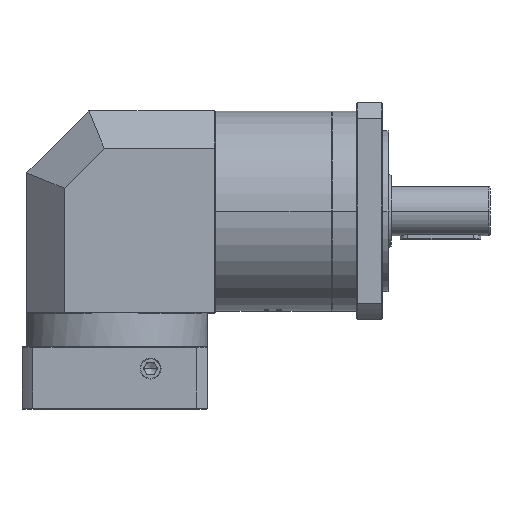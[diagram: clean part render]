
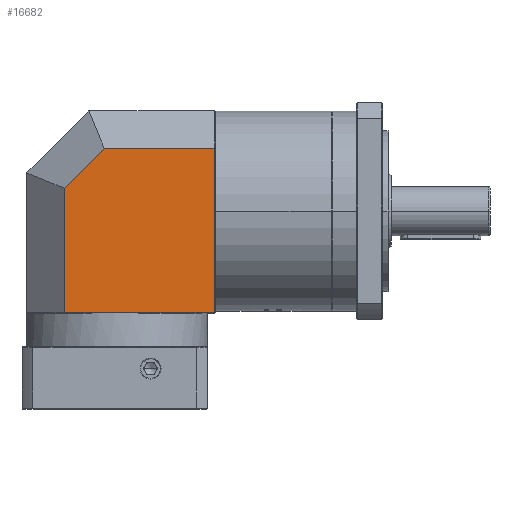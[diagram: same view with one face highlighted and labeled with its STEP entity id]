
A CAD part, top view. The second image highlights one B-rep face of the part: STEP entity #16682.
In plain terms, the highlighted planar face has unit normal (0, 0, 1).
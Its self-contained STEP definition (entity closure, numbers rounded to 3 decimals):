
#2240 = CARTESIAN_POINT ( 'NONE',  ( 86.533, -69.506, 323.25 ) ) ;
#4491 = VECTOR ( 'NONE', #87929, 1000. ) ;
#5233 = ORIENTED_EDGE ( 'NONE', *, *, #144034, .T. ) ;
#9850 = DIRECTION ( 'NONE',  ( 1., 0., 0. ) ) ;
#10577 = LINE ( 'NONE', #13998, #70006 ) ;
#13998 = CARTESIAN_POINT ( 'NONE',  ( -35.167, -69.506, 323.25 ) ) ;
#16682 = ADVANCED_FACE ( 'NONE', ( #114308 ), #69505, .T. ) ;
#19548 = VECTOR ( 'NONE', #96284, 1000. ) ;
#21850 = CARTESIAN_POINT ( 'NONE',  ( 10.933, -69.506, 323.25 ) ) ;
#27278 = VERTEX_POINT ( 'NONE', #149455 ) ;
#32521 = LINE ( 'NONE', #2240, #19548 ) ;
#35916 = VECTOR ( 'NONE', #91477, 1000. ) ;
#36180 = AXIS2_PLACEMENT_3D ( 'NONE', #21850, #128245, #9850 ) ;
#41215 = ORIENTED_EDGE ( 'NONE', *, *, #56910, .T. ) ;
#44433 = CARTESIAN_POINT ( 'NONE',  ( 10.933, -17.756, 323.25 ) ) ;
#47228 = VERTEX_POINT ( 'NONE', #66245 ) ;
#48923 = ORIENTED_EDGE ( 'NONE', *, *, #60068, .F. ) ;
#56910 = EDGE_CURVE ( 'NONE', #47228, #137599, #124956, .T. ) ;
#60068 = EDGE_CURVE ( 'NONE', #146701, #68258, #32521, .T. ) ;
#62966 = EDGE_CURVE ( 'NONE', #27278, #68258, #121517, .T. ) ;
#66245 = CARTESIAN_POINT ( 'NONE',  ( -2.741, -17.756, 323.25 ) ) ;
#67693 = DIRECTION ( 'NONE',  ( 1., 0., 0. ) ) ;
#67712 = CARTESIAN_POINT ( 'NONE',  ( 86.533, -17.756, 323.25 ) ) ;
#68258 = VERTEX_POINT ( 'NONE', #124562 ) ;
#69505 = PLANE ( 'NONE',  #36180 ) ;
#70006 = VECTOR ( 'NONE', #108493, 1000. ) ;
#84804 = VECTOR ( 'NONE', #67693, 1000. ) ;
#87929 = DIRECTION ( 'NONE',  ( 1., 0., 0. ) ) ;
#91477 = DIRECTION ( 'NONE',  ( -0.707, -0.707, 0. ) ) ;
#96284 = DIRECTION ( 'NONE',  ( 0., -1., 0. ) ) ;
#98554 = ORIENTED_EDGE ( 'NONE', *, *, #140925, .F. ) ;
#106098 = ORIENTED_EDGE ( 'NONE', *, *, #62966, .T. ) ;
#108493 = DIRECTION ( 'NONE',  ( 0., -1., 0. ) ) ;
#114308 = FACE_OUTER_BOUND ( 'NONE', #122287, .T. ) ;
#121517 = LINE ( 'NONE', #136256, #4491 ) ;
#122287 = EDGE_LOOP ( 'NONE', ( #106098, #48923, #98554, #41215, #5233 ) ) ;
#124562 = CARTESIAN_POINT ( 'NONE',  ( 86.533, -150.756, 323.25 ) ) ;
#124956 = LINE ( 'NONE', #138739, #35916 ) ;
#128245 = DIRECTION ( 'NONE',  ( 0., 0., 1. ) ) ;
#131321 = LINE ( 'NONE', #44433, #84804 ) ;
#136256 = CARTESIAN_POINT ( 'NONE',  ( 10.933, -150.756, 323.25 ) ) ;
#137599 = VERTEX_POINT ( 'NONE', #151644 ) ;
#138739 = CARTESIAN_POINT ( 'NONE',  ( -2.741, -17.756, 323.25 ) ) ;
#140925 = EDGE_CURVE ( 'NONE', #47228, #146701, #131321, .T. ) ;
#144034 = EDGE_CURVE ( 'NONE', #137599, #27278, #10577, .T. ) ;
#146701 = VERTEX_POINT ( 'NONE', #67712 ) ;
#149455 = CARTESIAN_POINT ( 'NONE',  ( -35.167, -150.756, 323.25 ) ) ;
#151644 = CARTESIAN_POINT ( 'NONE',  ( -35.167, -50.182, 323.25 ) ) ;
